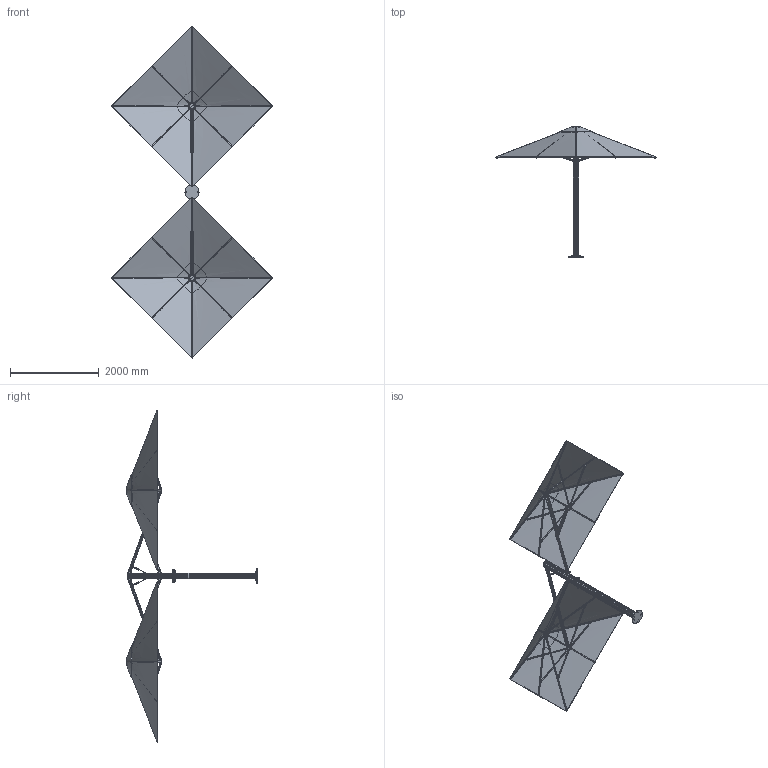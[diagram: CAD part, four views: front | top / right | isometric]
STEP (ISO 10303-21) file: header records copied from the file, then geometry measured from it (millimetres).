
FILE_DESCRIPTION (( 'STEP AP203' ), '1' );
FILE_NAME ('Unity 2.5M CNR SQ Duo Opposite.STEP', '2020-06-18T21:42:43', ( '' ), ( '' ), 'SwSTEP 2.0', 'SolidWorks 2017', '' );
FILE_SCHEMA (( 'CONFIG_CONTROL_DESIGN' ));
Length unit declared in the file: millimetre
Products named in the file (49): SMP_UM - 110093; SMP_UM - 010024_Canopy Only-OPEN; SMP_UM - 110110; SMP_UM - 110098; SMP_UM - 110183; SMP_UM - 010264 - 2.5M Fabric Canopy; SMP_UM - 110060; SMP_UM - 110207; SMP_UM - 210043 - Gastec Spring_Extended; SMP_UM - 110059; SMP_UM - 110185; SMP_UM - 110131; SMP_UM - 110126 (2); SMP_UM - 110168; SMP_UM - 110089; SMP_UM - 110085; SMP_UM - 110094; SMP_UM - 110166; socket button head cap screw_am_B18.3.4M - 5 x 0.8 x 16 SBHCS --N; SMP_UM - 110064; SMP_UM - 110184; SMP_UM - 110206; SMP_UM - 110066; SMP_UM - 110102_Stretched; SMP_UM - 110079; SMP_UM - 110117; SMP_UM - 110081; SMP_UM - 110069; SMP_UM - 110182; SMP_UM - 110083b; SMP_UM - 110096_PD; SMP_UM - 110088; SMP_UM - 110080; SMP_UM - 210023; SMP_UM - 110313_Default<As Machined>; SMP_UM - 110167; SMP_UM - 110075; SMP_UM - 210036; SMP_UM - 110083; SMP_UM - 110116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
Assembly tree (70 placements, depth 4):
  Unity 2.5M CNR SQ Duo Opposite
    SMP_UM - 110116
      SMP_UM - 110112_ALL HOLES
    SMP_UM - 110123
      SMP_UM - 110313_Default<As Machined>
    SMP_UM - 110222
    SMP_UM - 110126 (2)
    SMP_UM - 010024_Canopy Only-OPEN  x2
      SMP_UM - 110059
        SMP_UM - 110081
        SMP_UM - 110080  x2
      SMP_UM - 110060
        SMP_UM - 110083
        SMP_UM - 110084
        SMP_UM - 210023
        socket button head cap screw_am_B18.3.4M - 5 x 0.8 x 16 SBHCS --N
        SMP_UM - 210036
        SMP_UM - 110085  x2
        SMP_UM - 110083b
      SMP_UM - 110064
        SMP_UM - 110092
      SMP_UM - 110063
        SMP_UM - 110092
        SMP_UM - 110093
        SMP_UM - 110094
        SMP_UM - 110110
      SMP_UM - 110166
        SMP_UM - 110182
        SMP_UM - 110089
        SMP_UM - 110088
        SMP_UM - 110131
      SMP_UM - 110206
        SMP_UM - 110183
        SMP_UM - 110089  x2
      SMP_UM - 110066
        SMP_UM - 110098
        SMP_UM - 110075
        SMP_UM - 110096_PD
        SMP_UM - 110102_Stretched
      SMP_UM - 210043 - Gastec Spring_Extended
      SMP_UM - 110207
        SMP_UM - 110184
        SMP_UM - 110088
        SMP_UM - 110131
      SMP_UM - 110167
        SMP_UM - 110185
        SMP_UM - 110089  x2
      SMP_UM - 110168
        SMP_UM - 110075
        SMP_UM - 110079
      SMP_UM - 010264 - 2.5M Fabric Canopy
    SMP_UM - 110117
    SMP_UM - 110065  x2
      SMP_UM - 110070
      SMP_UM - 110069
Bounding box: 3622.14 x 2943.5 x 7479.22 mm (x, y, z)
Volume: 91960028.6 mm3; surface area: 39380065 mm2
Topology: 151 solids, 155 shells, 3192 faces, 7846 edges, 4948 vertices
Faces by surface type: cylinder 1082, plane 890, bspline 582, cone 488, torus 138, sphere 12
Entity records: 62592 total; most frequent: CARTESIAN_POINT 32894, ORIENTED_EDGE 5296, DIRECTION 4666, EDGE_CURVE 2648, AXIS2_PLACEMENT_3D 1861, VERTEX_POINT 1636, EDGE_LOOP 1130, ADVANCED_FACE 1091
